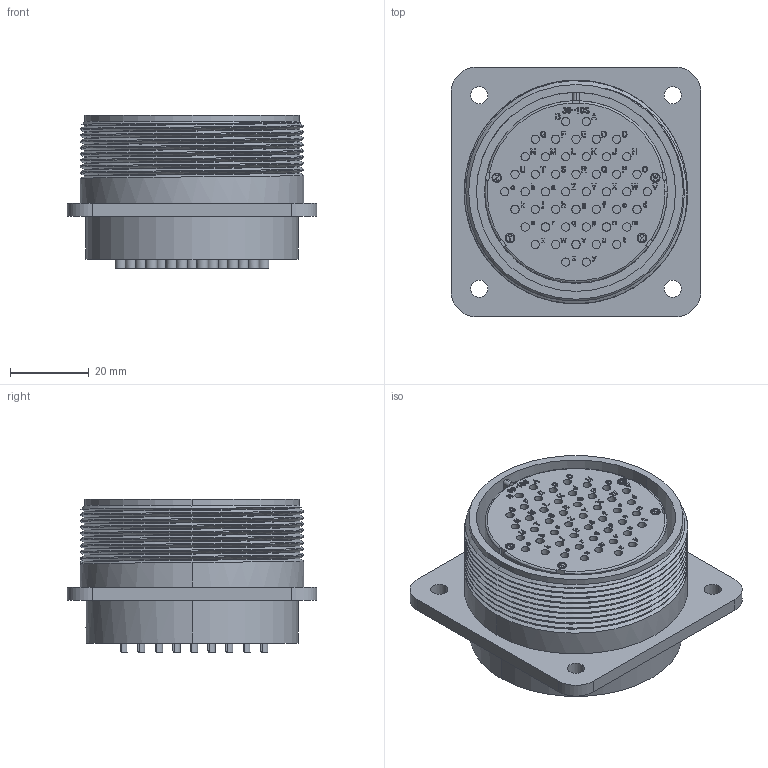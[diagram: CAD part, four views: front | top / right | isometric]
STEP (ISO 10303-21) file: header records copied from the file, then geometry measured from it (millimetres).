
FILE_DESCRIPTION (( 'STEP AP203' ), '1' );
FILE_NAME ('DMS3102A36-10S.STEP', '2017-10-16T01:46:43', ( '' ), ( '' ), 'SwSTEP 2.0', 'SolidWorks 2015', '' );
FILE_SCHEMA (( 'CONFIG_CONTROL_DESIGN' ));
Length unit declared in the file: millimetre
Products named in the file (1): DMS3102A36-10S
Bounding box: 63.5 x 63.5 x 39.16 mm (x, y, z)
Volume: 81171.5 mm3; surface area: 30653.8 mm2
Topology: 1 solids, 1 shells, 3700 faces, 10067 edges, 6709 vertices
Faces by surface type: plane 1901, bspline 978, cylinder 812, torus 6, cone 3
Entity records: 146513 total; most frequent: CARTESIAN_POINT 60091, ORIENTED_EDGE 20134, DIRECTION 13969, EDGE_CURVE 10067, VERTEX_POINT 6709, VECTOR 6163, LINE 6163, EDGE_LOOP 4050
